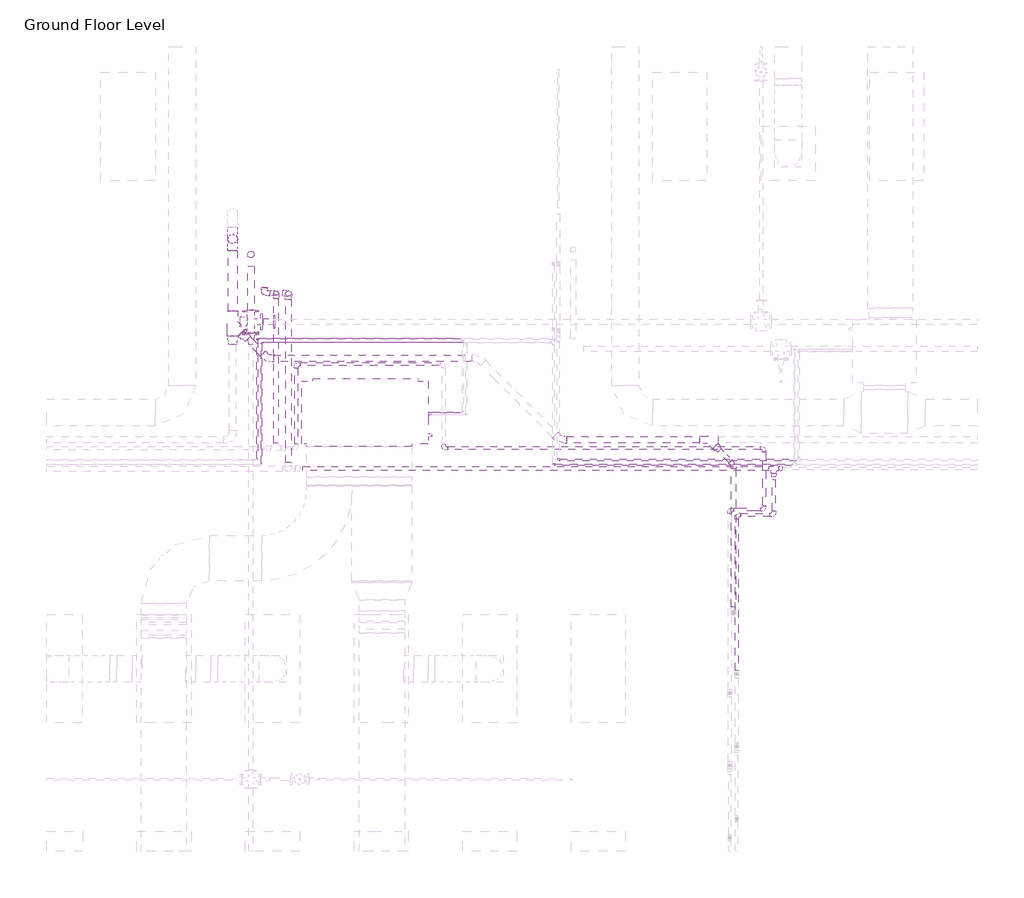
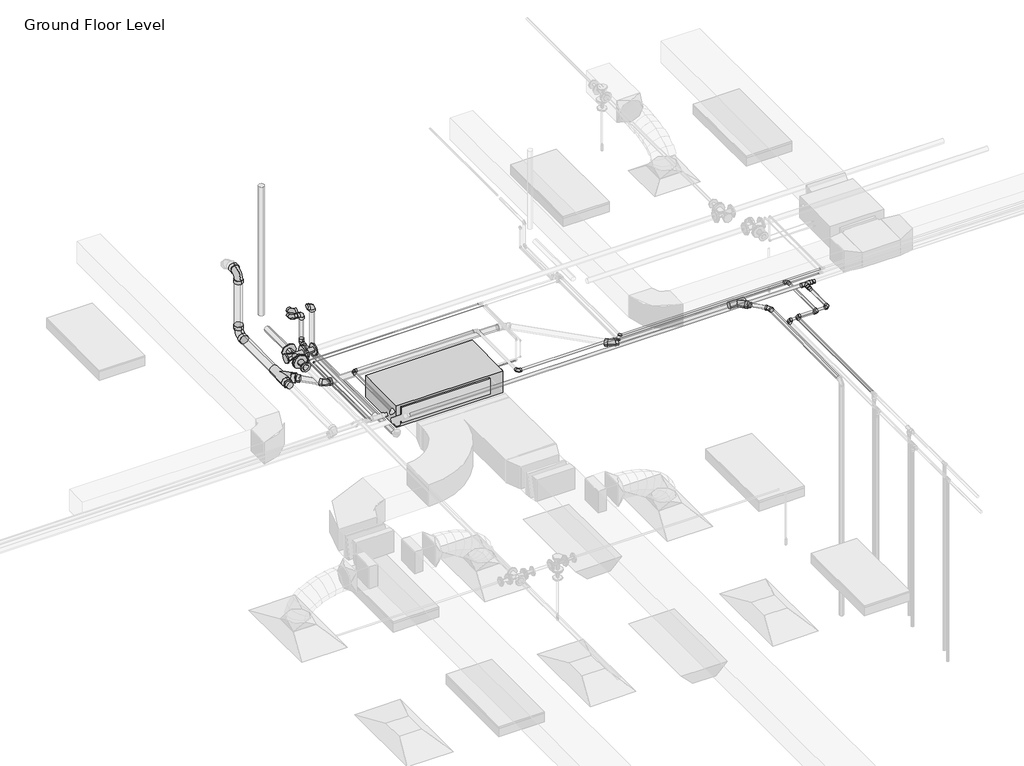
# One storey, part 52 of 74: 33 pipe fittings, 30 pipe segments, 1 proxy.
"""IFC4 building model written with IfcOpenShell, lengths in millimetres."""

from ifc_helpers import new_model, si_unit, point, frame, frame_2d, origin, place, context, project, spatial, circle_curve, trimmed, segment, composite_curve, outline, extrude, transform, mapped, element, save
from components import fcu_daikin_iu_5a1bd61d, m_bend_pvc_sch_40_dwv_standard_9e3ead78, m_bend_pvc_sch_40_dwv_standard_3e306cb9, m_bend_pvc_sch_40_dwv_standard_bd716fa2, m_bend_pvc_sch_40_dwv_standard_fbb643c2, m_bend_pvc_sch_40_dwv_standard_bfb77a87, m_elbow_generic_standard_a088f956, m_elbow_generic_standard_2a704253, m_elbow_generic_standard_73005802, m_elbow_generic_standard_bb5ffebe, m_reducer_flanged_cs_class_150_standard_50093ec8, m_reducer_flanged_cs_class_150_standard_aac2962f, m_reducer_pvc_sch_40_dwv_standard_daff2b06, m_reducer_pvc_sch_40_dwv_standard_93e50943, m_tee_pvc_sch_40_standard_5dbb3026, m_tee_pvc_sch_40_standard_4c5b037c, m_tee_round_base_flanged_cs_class_150_standard_f067e6f9, standard_517a5a8d, standard_08ff6011, standard_d0d0b892, standard_57727813, standard_102e5625

model = new_model("IFC4")

# Units and contexts
model_context = context("Model", 3, world=origin())
ifc_project = project(units=[si_unit("LENGTHUNIT", "METRE", prefix="MILLI")], contexts=[model_context])

# Site, building, storey
site = spatial("IfcSite", under=ifc_project)
building = spatial("IfcBuilding", under=site)
storey = spatial("IfcBuildingStorey", under=building, Name="Ground Floor Level", Elevation=900.0)

# Proxy
placement = place(None, origin())
fcu_daikin_iu_shape = fcu_daikin_iu_5a1bd61d(model_context)
element("IfcBuildingElementProxy", 1, Name="FCU-DAIKIN IU : 12.9kW, 230V/50Hz/1Ph", ObjectType="FCU-DAIKIN IU : 12.9kW, 230V/50Hz/1Ph", at=placement, inside=storey, context=model_context, shape_type="MappedRepresentation", body=[
    mapped(fcu_daikin_iu_shape, transform((-4715.1910789, 14069.8153534, 3984.0925223), x_axis=(1.0, 0.0, 0.0), y_axis=(0.0, 1.0, 0.0), z_axis=(0.0, 0.0, 1.0))),
])

# Pipe fittings
m_bend_pvc_sch_40_dwv_standard_shape = m_bend_pvc_sch_40_dwv_standard_9e3ead78(model_context)
element("IfcPipeFitting", 2, ObjectType="M_Bend - PVC - Sch 40 - DWV : Standard", at=placement, inside=storey, context=model_context, shape_type="MappedRepresentation", body=[
    mapped(m_bend_pvc_sch_40_dwv_standard_shape, transform((-2561.2921336, 13768.7316659, 4127.72349), x_axis=(0.7070931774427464, -0.7070575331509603, -0.009427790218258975), y_axis=(0.7070496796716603, 0.7071481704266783, -0.0047133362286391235), z_axis=(0.009999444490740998, -0.003333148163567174, 0.9999444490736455))),
])
m_bend_pvc_sch_40_dwv_standard_2_shape = m_bend_pvc_sch_40_dwv_standard_3e306cb9(model_context)
element("IfcPipeFitting", 3, ObjectType="M_Bend - PVC - Sch 40 - DWV : Standard", at=placement, inside=storey, context=model_context, shape_type="MappedRepresentation", body=[
    mapped(m_bend_pvc_sch_40_dwv_standard_2_shape, transform((-642.2357232, 13495.4654482, 4110.1731446), x_axis=(0.0, 0.9999500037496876, 0.009999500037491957), y_axis=(-0.9999912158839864, -4.191228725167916e-05, 0.004191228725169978), z_axis=(0.004191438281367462, -0.00999941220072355, 0.9999412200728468))),
])
m_bend_pvc_sch_40_dwv_standard_3_shape = m_bend_pvc_sch_40_dwv_standard_bd716fa2(model_context)
element("IfcPipeFitting", 4, ObjectType="M_Bend - PVC - Sch 40 - DWV : Standard", at=placement, inside=storey, context=model_context, shape_type="MappedRepresentation", body=[
    mapped(m_bend_pvc_sch_40_dwv_standard_3_shape, transform((-6179.1770144, 15988.8715849, 4179.1289206), x_axis=(0.0, 0.9999500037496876, 0.009999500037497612), y_axis=(0.0, -0.009999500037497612, 0.9999500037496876), z_axis=(1.0, 0.0, 0.0))),
])
m_bend_pvc_sch_40_dwv_standard_4_shape = m_bend_pvc_sch_40_dwv_standard_fbb643c2(model_context)
element("IfcPipeFitting", 5, ObjectType="M_Bend - PVC - Sch 40 - DWV : Standard", at=placement, inside=storey, context=model_context, shape_type="MappedRepresentation", body=[
    mapped(m_bend_pvc_sch_40_dwv_standard_4_shape, transform((-5796.171114, 14668.7334723, 4163.0722858), x_axis=(0.7069124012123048, -0.7071711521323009, -0.013557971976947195), y_axis=(0.7072304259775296, 0.7069828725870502, -0.0005851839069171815), z_axis=(0.009999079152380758, -0.00917493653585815, 0.999907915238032))),
])
m_bend_pvc_sch_40_dwv_standard_5_shape = m_bend_pvc_sch_40_dwv_standard_bfb77a87(model_context)
element("IfcPipeFitting", 6, ObjectType="M_Bend - PVC - Sch 40 - DWV : Standard", at=placement, inside=storey, context=model_context, shape_type="MappedRepresentation", body=[
    mapped(m_bend_pvc_sch_40_dwv_standard_5_shape, transform((-6179.1776394, 15988.874234, 5027.5258857), x_axis=(-4.882554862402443e-06, 2.069385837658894e-05, 0.9999999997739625), y_axis=(4.892659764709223e-08, 0.9999999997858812, -2.0693858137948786e-05), z_axis=(-0.9999999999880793, 4.8825558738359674e-08, -4.882555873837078e-06))),
])
m_elbow_generic_standard_shape = m_elbow_generic_standard_a088f956(model_context)
element("IfcPipeFitting", 7, ObjectType="M_Elbow - Generic : Standard", at=placement, inside=storey, context=model_context, shape_type="MappedRepresentation", body=[
    mapped(m_elbow_generic_standard_shape, transform((-5907.05663, 14885.6024145, 4380.0), x_axis=(-1.0, 0.0, 0.0), y_axis=(0.0, -1.0, 0.0), z_axis=(0.0, 0.0, 1.0))),
])
m_elbow_generic_standard_2_shape = m_elbow_generic_standard_2a704253(model_context)
element("IfcPipeFitting", 8, ObjectType="M_Elbow - Generic : Standard", at=placement, inside=storey, context=model_context, shape_type="MappedRepresentation", body=[
    mapped(m_elbow_generic_standard_2_shape, transform((-5859.8931643, 14844.4055749, 4365.0), x_axis=(-1.0, 0.0, 0.0), y_axis=(0.0, -1.0, 0.0), z_axis=(0.0, 0.0, 1.0))),
])
m_elbow_generic_standard_3_shape = m_elbow_generic_standard_73005802(model_context)
element("IfcPipeFitting", 9, ObjectType="M_Elbow - Generic : Standard", at=placement, inside=storey, context=model_context, shape_type="MappedRepresentation", body=[
    mapped(m_elbow_generic_standard_3_shape, transform((-2579.6952605, 13545.2153534, 4380.0), x_axis=(0.0, -1.0, 0.0), y_axis=(1.0, 0.0, 0.0), z_axis=(0.0, 0.0, 1.0))),
])
m_elbow_generic_standard_4_shape = m_elbow_generic_standard_bb5ffebe(model_context)
element("IfcPipeFitting", 10, ObjectType="M_Elbow - Generic : Standard", at=placement, inside=storey, context=model_context, shape_type="MappedRepresentation", body=[
    mapped(m_elbow_generic_standard_4_shape, transform((-2632.5317947, 13494.0185138, 4365.0), x_axis=(0.0, -1.0, 0.0), y_axis=(1.0, 0.0, 0.0), z_axis=(0.0, 0.0, 1.0))),
])
m_reducer_flanged_cs_class_150_standard_shape = m_reducer_flanged_cs_class_150_standard_50093ec8(model_context)
element("IfcPipeFitting", 11, ObjectType="M_Reducer - Flanged - CS - Class 150 : Standard", at=placement, inside=storey, context=model_context, shape_type="MappedRepresentation", body=[
    mapped(m_reducer_flanged_cs_class_150_standard_shape, transform((-5851.130502, 15073.2009828, 4360.0), x_axis=(1.0, 0.0, 0.0), y_axis=(0.0, 1.0, 0.0), z_axis=(0.0, 0.0, 1.0))),
])
m_reducer_flanged_cs_class_150_standard_2_shape = m_reducer_flanged_cs_class_150_standard_aac2962f(model_context)
element("IfcPipeFitting", 12, ObjectType="M_Reducer - Flanged - CS - Class 150 : Standard", at=placement, inside=storey, context=model_context, shape_type="MappedRepresentation", body=[
    mapped(m_reducer_flanged_cs_class_150_standard_2_shape, transform((-5978.130502, 14946.2009828, 4360.0), x_axis=(0.0, -1.0, 0.0), y_axis=(1.0, 0.0, 0.0), z_axis=(0.0, 0.0, 1.0))),
])
m_reducer_pvc_sch_40_dwv_standard_shape = m_reducer_pvc_sch_40_dwv_standard_daff2b06(model_context)
element("IfcPipeFitting", 13, ObjectType="M_Reducer - PVC - Sch 40 - DWV : Standard", at=placement, inside=storey, context=model_context, shape_type="MappedRepresentation", body=[
    mapped(m_reducer_pvc_sch_40_dwv_standard_shape, transform((-843.6840301, 13696.9036229, 4110.2439857), x_axis=(0.7070889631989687, -0.7070533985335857, -0.010034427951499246), y_axis=(0.707053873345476, 0.7071477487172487, -0.004108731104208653), z_axis=(0.010000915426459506, -0.004189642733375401, 0.9999412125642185))),
])
m_reducer_pvc_sch_40_dwv_standard_2_shape = m_reducer_pvc_sch_40_dwv_standard_93e50943(model_context)
element("IfcPipeFitting", 14, ObjectType="M_Reducer - PVC - Sch 40 - DWV : Standard", at=placement, inside=storey, context=model_context, shape_type="MappedRepresentation", body=[
    mapped(m_reducer_pvc_sch_40_dwv_standard_2_shape, transform((-6179.1770144, 14819.9179815, 4167.4393846), x_axis=(0.0, 0.9999500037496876, 0.009999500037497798), y_axis=(-1.0000000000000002, 0.0, 0.0), z_axis=(0.0, -0.009999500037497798, 0.9999500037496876))),
])
element("IfcPipeFitting", 15, ObjectType="M_Reducer - PVC - Sch 40 - DWV : Standard", at=placement, inside=storey, context=model_context, shape_type="MappedRepresentation", body=[
    mapped(m_reducer_pvc_sch_40_dwv_standard_2_shape, transform((-6010.7168995, 14883.3577879, 4167.1870895), x_axis=(-0.7069124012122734, 0.7071711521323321, 0.01355797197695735), y_axis=(-0.7072361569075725, -0.7069773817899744, -2.1519182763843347e-08), z_axis=(0.00958516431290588, -0.009588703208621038, 0.9999080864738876))),
])
m_tee_pvc_sch_40_standard_shape = m_tee_pvc_sch_40_standard_5dbb3026(model_context)
element("IfcPipeFitting", 16, ObjectType="M_Tee - PVC - Sch 40 : Standard", at=placement, inside=storey, context=model_context, shape_type="MappedRepresentation", body=[
    mapped(m_tee_pvc_sch_40_standard_shape, transform((-915.515686, 13768.7316659, 4111.2633618), x_axis=(-0.9999499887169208, 0.0, 0.010001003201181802), y_axis=(4.190063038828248e-05, 0.9999912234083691, 0.004189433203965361), z_axis=(-0.010000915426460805, 0.004189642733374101, -0.9999412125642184))),
])
m_tee_pvc_sch_40_standard_2_shape = m_tee_pvc_sch_40_standard_4c5b037c(model_context)
element("IfcPipeFitting", 17, ObjectType="M_Tee - PVC - Sch 40 : Standard", at=placement, inside=storey, context=model_context, shape_type="MappedRepresentation", body=[
    mapped(m_tee_pvc_sch_40_standard_2_shape, transform((-6179.1770144, 15051.7796868, 4169.7580016), x_axis=(0.0, 0.9999500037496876, 0.009999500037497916), y_axis=(-0.9999972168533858, -2.3591797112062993e-05, 0.0023591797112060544), z_axis=(0.0023592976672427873, -0.009999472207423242, 0.9999472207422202))),
])
m_tee_round_base_flanged_cs_class_150_standard_shape = m_tee_round_base_flanged_cs_class_150_standard_f067e6f9(model_context)
element("IfcPipeFitting", 18, ObjectType="M_Tee Round Base - Flanged - CS - Class 150 : Standard", at=placement, inside=storey, context=model_context, shape_type="MappedRepresentation", body=[
    mapped(m_tee_round_base_flanged_cs_class_150_standard_shape, transform((-5978.130502, 15073.2009828, 4360.0), x_axis=(0.0, -1.0, 0.0), y_axis=(-1.0, 0.0, 0.0), z_axis=(0.0, 0.0, -1.0))),
])
standard_shape = standard_517a5a8d(model_context)
element("IfcPipeFitting", 19, ObjectType="M_Elbow - CPVC - Sch 40 : Standard", at=placement, inside=storey, context=model_context, shape_type="MappedRepresentation", body=[
    mapped(standard_shape, transform((-607.2327605, 12935.5128345, 4315.0), x_axis=(-1.0, 0.0, 0.0), y_axis=(0.0, -1.0, 0.0), z_axis=(0.0, 0.0, 1.0))),
])
element("IfcPipeFitting", 20, ObjectType="M_Elbow - CPVC - Sch 40 : Standard", at=placement, inside=storey, context=model_context, shape_type="MappedRepresentation", body=[
    mapped(standard_shape, transform((-197.2327605, 12935.5128345, 4315.0), x_axis=(1.0, 0.0, 0.0), y_axis=(0.0, 1.0, 0.0), z_axis=(0.0, 0.0, 1.0))),
])
element("IfcPipeFitting", 21, ObjectType="M_Elbow - CPVC - Sch 40 : Standard", at=placement, inside=storey, context=model_context, shape_type="MappedRepresentation", body=[
    mapped(standard_shape, transform((-304.0671674, 13675.2153534, 4250.0), x_axis=(0.0, 1.0, 0.0), y_axis=(-1.0, 0.0, 0.0), z_axis=(0.0, 0.0, 1.0))),
])
element("IfcPipeFitting", 22, ObjectType="M_Elbow - CPVC - Sch 40 : Standard", at=placement, inside=storey, context=model_context, shape_type="MappedRepresentation", body=[
    mapped(standard_shape, transform((-304.0671674, 12995.2153534, 4250.0), x_axis=(1.0, 0.0, 0.0), y_axis=(0.0, 1.0, 0.0), z_axis=(0.0, 0.0, 1.0))),
])
element("IfcPipeFitting", 23, ObjectType="M_Elbow - CPVC - Sch 40 : Standard", at=placement, inside=storey, context=model_context, shape_type="MappedRepresentation", body=[
    mapped(standard_shape, transform((-684.0671674, 12995.2153534, 4250.0), x_axis=(-1.0, 0.0, 0.0), y_axis=(0.0, -1.0, 0.0), z_axis=(0.0, 0.0, 1.0))),
])
element("IfcPipeFitting", 24, ObjectType="M_Elbow - CPVC - Sch 40 : Standard", at=placement, inside=storey, context=model_context, shape_type="MappedRepresentation", body=[
    mapped(standard_shape, transform((-5476.1871015, 14603.43487, 4250.0), x_axis=(-1.0, 0.0, 0.0), y_axis=(0.0, -1.0, 0.0), z_axis=(0.0, 0.0, 1.0))),
])
element("IfcPipeFitting", 25, ObjectType="M_Elbow - CPVC - Sch 40 : Standard", at=placement, inside=storey, context=model_context, shape_type="MappedRepresentation", body=[
    mapped(standard_shape, transform((-3846.4489567, 13675.2153534, 4250.0), x_axis=(0.0, -1.0, 0.0), y_axis=(1.0, 0.0, 0.0), z_axis=(0.0, 0.0, 1.0))),
])
standard_2_shape = standard_08ff6011(model_context)
element("IfcPipeFitting", 26, ObjectType="M_Tee - CPVC - Sch 40 : Standard", at=placement, inside=storey, context=model_context, shape_type="MappedRepresentation", body=[
    mapped(standard_2_shape, transform((-197.2327605, 13449.9865561, 4315.0), x_axis=(1.0, 0.0, 0.0), y_axis=(0.0, 1.0, 0.0), z_axis=(0.0, 0.0, 1.0))),
])
standard_3_shape = standard_d0d0b892(model_context)
element("IfcPipeFitting", 27, ObjectType="M_Coupling Reducing - CPVC - Sch 40 : Standard", at=placement, inside=storey, context=model_context, shape_type="MappedRepresentation", body=[
    mapped(standard_3_shape, transform((-143.2577605, 13449.9865561, 4315.0), x_axis=(1.0, 0.0, 0.0), y_axis=(0.0, 1.0, 0.0), z_axis=(0.0, 0.0, 1.0))),
])
element("IfcPipeFitting", 28, ObjectType="M_Coupling Reducing - CPVC - Sch 40 : Standard", at=placement, inside=storey, context=model_context, shape_type="MappedRepresentation", body=[
    mapped(standard_3_shape, transform((-197.2327605, 13396.0115561, 4315.0), x_axis=(0.0, -1.0, 0.0), y_axis=(1.0, 0.0, 0.0), z_axis=(0.0, 0.0, 1.0))),
])
standard_4_shape = standard_57727813(model_context)
element("IfcPipeFitting", 29, ObjectType="M_Elbow - CPVC - Sch 40 : Standard", at=placement, inside=storey, context=model_context, shape_type="MappedRepresentation", body=[
    mapped(standard_4_shape, transform((-5560.8713756, 15385.5016509, 4719.8375), x_axis=(0.0, 0.0, 1.0), y_axis=(-0.997564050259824, 0.06975647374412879, 0.0), z_axis=(-0.06975647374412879, -0.997564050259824, 0.0))),
])
element("IfcPipeFitting", 30, ObjectType="M_Elbow - CPVC - Sch 40 : Standard", at=placement, inside=storey, context=model_context, shape_type="MappedRepresentation", body=[
    mapped(standard_4_shape, transform((-5831.0029399, 15389.9865561, 4719.8375), x_axis=(0.0, -1.0, 0.0), y_axis=(1.0, 0.0, 0.0), z_axis=(0.0, 0.0, 1.0))),
])
element("IfcPipeFitting", 31, ObjectType="M_Elbow - CPVC - Sch 40 : Standard", at=placement, inside=storey, context=model_context, shape_type="MappedRepresentation", body=[
    mapped(standard_4_shape, transform((-5560.8713756, 15385.5016509, 4090.0), x_axis=(0.0, 0.0, -1.0), y_axis=(0.0, -1.0, 0.0), z_axis=(-1.0, 0.0, 0.0))),
])
standard_5_shape = standard_102e5625(model_context)
element("IfcPipeFitting", 32, ObjectType="M_Elbow - CPVC - Sch 40 : Standard", at=placement, inside=storey, context=model_context, shape_type="MappedRepresentation", body=[
    mapped(standard_5_shape, transform((-5698.3060147, 15389.9865561, 4250.0), x_axis=(0.0, 1.0, 0.0), y_axis=(0.0, 0.0, 1.0), z_axis=(1.0, 0.0, 0.0))),
])
element("IfcPipeFitting", 33, ObjectType="M_Elbow - CPVC - Sch 40 : Standard", at=placement, inside=storey, context=model_context, shape_type="MappedRepresentation", body=[
    mapped(standard_5_shape, transform((-5698.3060147, 15389.9865561, 4650.0), x_axis=(0.0, 0.0, 1.0), y_axis=(-1.0, 0.0, 0.0), z_axis=(0.0, -1.0, 0.0))),
])
element("IfcPipeFitting", 34, ObjectType="M_Elbow - CPVC - Sch 40 : Standard", at=placement, inside=storey, context=model_context, shape_type="MappedRepresentation", body=[
    mapped(standard_5_shape, transform((-5831.0029399, 15389.9865561, 4650.0), x_axis=(0.0, -1.0, 0.0), y_axis=(1.0, 0.0, 0.0), z_axis=(0.0, 0.0, 1.0))),
])

# Pipe segments
element("IfcPipeSegment", 35, ObjectType="CPVC", at=placement, inside=storey, context=model_context, shape_type="SweptSolid", body=[
    extrude(outline(composite_curve([segment(trimmed(circle_curve(frame_2d((4090.0, -5560.8713756)), 30.1625), [point((4090.0, -5591.0338756))], [point((4059.8375, -5560.8713756))], False, "CARTESIAN"), True, "CONTINUOUS"), segment(trimmed(circle_curve(frame_2d((4090.0, -5560.8713756)), 30.1625), [point((4059.8375, -5560.8713756))], [point((4090.0, -5530.7088756))], False, "CARTESIAN"), True, "CONTINUOUS"), segment(trimmed(circle_curve(frame_2d((4090.0, -5560.8713756)), 30.1625), [point((4090.0, -5530.7088756))], [point((4120.1625, -5560.8713756))], False, "CARTESIAN"), True, "CONTINUOUS"), segment(trimmed(circle_curve(frame_2d((4090.0, -5560.8713756)), 30.1625), [point((4120.1625, -5560.8713756))], [point((4090.0, -5591.0338756))], False, "CARTESIAN"), True, "CONTINUOUS")], self_intersect=False)), frame((0.0, 13514.2803061, 0.0), z_axis=(0.0, 1.0, 0.0), x_axis=(0.0, 0.0, 1.0)), (0.0, 0.0, 1.0), 1806.9275947),
])
element("IfcPipeSegment", 36, ObjectType="CPVC", at=placement, inside=storey, context=model_context, shape_type="SweptSolid", body=[
    extrude(outline(composite_curve([segment(trimmed(circle_curve(frame_2d((4250.0, -5698.3060147)), 24.13), [point((4250.0, -5674.1760147))], [point((4274.13, -5698.3060147))], False, "CARTESIAN"), True, "CONTINUOUS"), segment(trimmed(circle_curve(frame_2d((4250.0, -5698.3060147)), 24.13), [point((4274.13, -5698.3060147))], [point((4250.0, -5722.4360147))], False, "CARTESIAN"), True, "CONTINUOUS"), segment(trimmed(circle_curve(frame_2d((4250.0, -5698.3060147)), 24.13), [point((4250.0, -5722.4360147))], [point((4225.87, -5698.3060147))], False, "CARTESIAN"), True, "CONTINUOUS"), segment(trimmed(circle_curve(frame_2d((4250.0, -5698.3060147)), 24.13), [point((4225.87, -5698.3060147))], [point((4250.0, -5674.1760147))], False, "CARTESIAN"), True, "CONTINUOUS")], self_intersect=False)), frame((0.0, 13733.9655534, 0.0), z_axis=(0.0, 1.0, 0.0), x_axis=(0.0, 0.0, 1.0)), (0.0, 0.0, 1.0), 1593.3020527),
])
element("IfcPipeSegment", 37, ObjectType="CPVC", at=placement, inside=storey, context=model_context, shape_type="SweptSolid", body=[
    extrude(outline(composite_curve([segment(trimmed(circle_curve(frame_2d((4315.0, -607.2327605)), 16.7005), [point((4315.0, -590.5322605))], [point((4331.7005, -607.2327605))], False, "CARTESIAN"), True, "CONTINUOUS"), segment(trimmed(circle_curve(frame_2d((4315.0, -607.2327605)), 16.7005), [point((4331.7005, -607.2327605))], [point((4315.0, -623.9332605))], False, "CARTESIAN"), True, "CONTINUOUS"), segment(trimmed(circle_curve(frame_2d((4315.0, -607.2327605)), 16.7005), [point((4315.0, -623.9332605))], [point((4298.2995, -607.2327605))], False, "CARTESIAN"), True, "CONTINUOUS"), segment(trimmed(circle_curve(frame_2d((4315.0, -607.2327605)), 16.7005), [point((4298.2995, -607.2327605))], [point((4315.0, -590.5322605))], False, "CARTESIAN"), True, "CONTINUOUS")], self_intersect=False)), frame((0.0, 11215.2130345, 0.0), z_axis=(0.0, 1.0, 0.0), x_axis=(0.0, 0.0, 1.0)), (0.0, 0.0, 1.0), 1677.03725),
])
element("IfcPipeSegment", 38, ObjectType="CPVC", at=placement, inside=storey, context=model_context, shape_type="SweptSolid", body=[
    extrude(outline(composite_curve([segment(trimmed(circle_curve(frame_2d((12935.5128345, 4315.0)), 16.7005), [point((12918.8123345, 4315.0))], [point((12935.5128345, 4331.7005))], False, "CARTESIAN"), True, "CONTINUOUS"), segment(trimmed(circle_curve(frame_2d((12935.5128345, 4315.0)), 16.7005), [point((12935.5128345, 4331.7005))], [point((12952.2133345, 4315.0))], False, "CARTESIAN"), True, "CONTINUOUS"), segment(trimmed(circle_curve(frame_2d((12935.5128345, 4315.0)), 16.7005), [point((12952.2133345, 4315.0))], [point((12935.5128345, 4298.2995))], False, "CARTESIAN"), True, "CONTINUOUS"), segment(trimmed(circle_curve(frame_2d((12935.5128345, 4315.0)), 16.7005), [point((12935.5128345, 4298.2995))], [point((12918.8123345, 4315.0))], False, "CARTESIAN"), True, "CONTINUOUS")], self_intersect=False)), frame((-563.9702105, 0.0, 0.0), z_axis=(1.0, 0.0, 0.0), x_axis=(0.0, 1.0, 0.0)), (0.0, 0.0, 1.0), 323.4749),
])
element("IfcPipeSegment", 39, ObjectType="CPVC", at=placement, inside=storey, context=model_context, shape_type="SweptSolid", body=[
    extrude(outline(composite_curve([segment(trimmed(circle_curve(frame_2d((4315.0, -197.2327605)), 16.7005), [point((4315.0, -180.5322605))], [point((4331.7005, -197.2327605))], False, "CARTESIAN"), True, "CONTINUOUS"), segment(trimmed(circle_curve(frame_2d((4315.0, -197.2327605)), 16.7005), [point((4331.7005, -197.2327605))], [point((4315.0, -213.9332605))], False, "CARTESIAN"), True, "CONTINUOUS"), segment(trimmed(circle_curve(frame_2d((4315.0, -197.2327605)), 16.7005), [point((4315.0, -213.9332605))], [point((4298.2995, -197.2327605))], False, "CARTESIAN"), True, "CONTINUOUS"), segment(trimmed(circle_curve(frame_2d((4315.0, -197.2327605)), 16.7005), [point((4298.2995, -197.2327605))], [point((4315.0, -180.5322605))], False, "CARTESIAN"), True, "CONTINUOUS")], self_intersect=False)), frame((0.0, 12978.7753845, 0.0), z_axis=(0.0, 1.0, 0.0), x_axis=(0.0, 0.0, 1.0)), (0.0, 0.0, 1.0), 351.1172966),
])
element("IfcPipeSegment", 40, ObjectType="CPVC", at=placement, inside=storey, context=model_context, shape_type="SweptSolid", body=[
    extrude(outline(composite_curve([segment(trimmed(circle_curve(frame_2d((13449.9865561, 4315.0)), 21.082), [point((13471.0685561, 4315.0))], [point((13449.9865561, 4293.918))], False, "CARTESIAN"), True, "CONTINUOUS"), segment(trimmed(circle_curve(frame_2d((13449.9865561, 4315.0)), 21.082), [point((13449.9865561, 4293.918))], [point((13428.9045561, 4315.0))], False, "CARTESIAN"), True, "CONTINUOUS"), segment(trimmed(circle_curve(frame_2d((13449.9865561, 4315.0)), 21.082), [point((13428.9045561, 4315.0))], [point((13449.9865561, 4336.082))], False, "CARTESIAN"), True, "CONTINUOUS"), segment(trimmed(circle_curve(frame_2d((13449.9865561, 4315.0)), 21.082), [point((13449.9865561, 4336.082))], [point((13471.0685561, 4315.0))], False, "CARTESIAN"), True, "CONTINUOUS")], self_intersect=False)), frame((-5401.6556136, 0.0, 0.0), z_axis=(1.0, 0.0, 0.0), x_axis=(0.0, 1.0, 0.0)), (0.0, 0.0, 1.0), 5150.4478531),
])
element("IfcPipeSegment", 41, ObjectType="CPVC", at=placement, inside=storey, context=model_context, shape_type="SweptSolid", body=[
    extrude(outline(composite_curve([segment(trimmed(circle_curve(frame_2d((-5698.3060147, 15389.9865561)), 24.13), [point((-5722.4360147, 15389.9865561))], [point((-5698.3060147, 15414.1165561))], False, "CARTESIAN"), True, "CONTINUOUS"), segment(trimmed(circle_curve(frame_2d((-5698.3060147, 15389.9865561)), 24.13), [point((-5698.3060147, 15414.1165561))], [point((-5674.1760147, 15389.9865561))], False, "CARTESIAN"), True, "CONTINUOUS"), segment(trimmed(circle_curve(frame_2d((-5698.3060147, 15389.9865561)), 24.13), [point((-5674.1760147, 15389.9865561))], [point((-5698.3060147, 15365.8565561))], False, "CARTESIAN"), True, "CONTINUOUS"), segment(trimmed(circle_curve(frame_2d((-5698.3060147, 15389.9865561)), 24.13), [point((-5698.3060147, 15365.8565561))], [point((-5722.4360147, 15389.9865561))], False, "CARTESIAN"), True, "CONTINUOUS")], self_intersect=False)), frame((0.0, 0.0, 4312.71895), z_axis=(0.0, 0.0, 1.0), x_axis=(1.0, 0.0, 0.0)), (0.0, 0.0, 1.0), 274.5621),
])
element("IfcPipeSegment", 42, ObjectType="CPVC", at=placement, inside=storey, context=model_context, shape_type="SweptSolid", body=[
    extrude(outline(composite_curve([segment(trimmed(circle_curve(frame_2d((-5560.8713756, 15385.5016509)), 30.1625), [point((-5591.0338756, 15385.5016509))], [point((-5560.8713756, 15415.6641509))], False, "CARTESIAN"), True, "CONTINUOUS"), segment(trimmed(circle_curve(frame_2d((-5560.8713756, 15385.5016509)), 30.1625), [point((-5560.8713756, 15415.6641509))], [point((-5530.7088756, 15385.5016509))], False, "CARTESIAN"), True, "CONTINUOUS"), segment(trimmed(circle_curve(frame_2d((-5560.8713756, 15385.5016509)), 30.1625), [point((-5530.7088756, 15385.5016509))], [point((-5560.8713756, 15355.3391509))], False, "CARTESIAN"), True, "CONTINUOUS"), segment(trimmed(circle_curve(frame_2d((-5560.8713756, 15385.5016509)), 30.1625), [point((-5560.8713756, 15355.3391509))], [point((-5591.0338756, 15385.5016509))], False, "CARTESIAN"), True, "CONTINUOUS")], self_intersect=False)), frame((0.0, 0.0, 4154.29375), z_axis=(0.0, 0.0, 1.0), x_axis=(1.0, 0.0, 0.0)), (0.0, 0.0, 1.0), 501.25),
])
element("IfcPipeSegment", 43, ObjectType="CPVC", at=placement, inside=storey, context=model_context, shape_type="SweptSolid", body=[
    extrude(outline(composite_curve([segment(trimmed(circle_curve(frame_2d((4250.0, -304.0671674)), 16.7005), [point((4250.0, -320.7676674))], [point((4233.2995, -304.0671674))], False, "CARTESIAN"), True, "CONTINUOUS"), segment(trimmed(circle_curve(frame_2d((4250.0, -304.0671674)), 16.7005), [point((4233.2995, -304.0671674))], [point((4250.0, -287.3666674))], False, "CARTESIAN"), True, "CONTINUOUS"), segment(trimmed(circle_curve(frame_2d((4250.0, -304.0671674)), 16.7005), [point((4250.0, -287.3666674))], [point((4266.7005, -304.0671674))], False, "CARTESIAN"), True, "CONTINUOUS"), segment(trimmed(circle_curve(frame_2d((4250.0, -304.0671674)), 16.7005), [point((4266.7005, -304.0671674))], [point((4250.0, -320.7676674))], False, "CARTESIAN"), True, "CONTINUOUS")], self_intersect=False)), frame((0.0, 13038.4779034, 0.0), z_axis=(0.0, 1.0, 0.0), x_axis=(0.0, 0.0, 1.0)), (0.0, 0.0, 1.0), 593.4749),
])
element("IfcPipeSegment", 44, ObjectType="CPVC", at=placement, inside=storey, context=model_context, shape_type="SweptSolid", body=[
    extrude(outline(composite_curve([segment(trimmed(circle_curve(frame_2d((12995.2153534, 4250.0)), 16.7005), [point((13011.9158534, 4250.0))], [point((12995.2153534, 4233.2995))], False, "CARTESIAN"), True, "CONTINUOUS"), segment(trimmed(circle_curve(frame_2d((12995.2153534, 4250.0)), 16.7005), [point((12995.2153534, 4233.2995))], [point((12978.5148534, 4250.0))], False, "CARTESIAN"), True, "CONTINUOUS"), segment(trimmed(circle_curve(frame_2d((12995.2153534, 4250.0)), 16.7005), [point((12978.5148534, 4250.0))], [point((12995.2153534, 4266.7005))], False, "CARTESIAN"), True, "CONTINUOUS"), segment(trimmed(circle_curve(frame_2d((12995.2153534, 4250.0)), 16.7005), [point((12995.2153534, 4266.7005))], [point((13011.9158534, 4250.0))], False, "CARTESIAN"), True, "CONTINUOUS")], self_intersect=False)), frame((-640.8046174, 0.0, 0.0), z_axis=(1.0, 0.0, 0.0), x_axis=(0.0, 1.0, 0.0)), (0.0, 0.0, 1.0), 293.4749),
])
element("IfcPipeSegment", 45, ObjectType="CPVC", at=placement, inside=storey, context=model_context, shape_type="SweptSolid", body=[
    extrude(outline(composite_curve([segment(trimmed(circle_curve(frame_2d((4250.0, -5476.1871015)), 16.7005), [point((4250.0, -5459.4866015))], [point((4266.7005, -5476.1871015))], False, "CARTESIAN"), True, "CONTINUOUS"), segment(trimmed(circle_curve(frame_2d((4250.0, -5476.1871015)), 16.7005), [point((4266.7005, -5476.1871015))], [point((4250.0, -5492.8876015))], False, "CARTESIAN"), True, "CONTINUOUS"), segment(trimmed(circle_curve(frame_2d((4250.0, -5476.1871015)), 16.7005), [point((4250.0, -5492.8876015))], [point((4233.2995, -5476.1871015))], False, "CARTESIAN"), True, "CONTINUOUS"), segment(trimmed(circle_curve(frame_2d((4250.0, -5476.1871015)), 16.7005), [point((4233.2995, -5476.1871015))], [point((4250.0, -5459.4866015))], False, "CARTESIAN"), True, "CONTINUOUS")], self_intersect=False)), frame((0.0, 13718.4779034, 0.0), z_axis=(0.0, 1.0, 0.0), x_axis=(0.0, 0.0, 1.0)), (0.0, 0.0, 1.0), 841.6944166),
])
element("IfcPipeSegment", 46, ObjectType="CPVC", at=placement, inside=storey, context=model_context, shape_type="SweptSolid", body=[
    extrude(outline(composite_curve([segment(trimmed(circle_curve(frame_2d((14603.43487, 4250.0)), 16.7005), [point((14620.13537, 4250.0))], [point((14603.43487, 4233.2995))], False, "CARTESIAN"), True, "CONTINUOUS"), segment(trimmed(circle_curve(frame_2d((14603.43487, 4250.0)), 16.7005), [point((14603.43487, 4233.2995))], [point((14586.73437, 4250.0))], False, "CARTESIAN"), True, "CONTINUOUS"), segment(trimmed(circle_curve(frame_2d((14603.43487, 4250.0)), 16.7005), [point((14586.73437, 4250.0))], [point((14603.43487, 4266.7005))], False, "CARTESIAN"), True, "CONTINUOUS"), segment(trimmed(circle_curve(frame_2d((14603.43487, 4250.0)), 16.7005), [point((14603.43487, 4266.7005))], [point((14620.13537, 4250.0))], False, "CARTESIAN"), True, "CONTINUOUS")], self_intersect=False)), frame((-5432.9245515, 0.0, 0.0), z_axis=(1.0, 0.0, 0.0), x_axis=(0.0, 1.0, 0.0)), (0.0, 0.0, 1.0), 1543.2130448),
])
element("IfcPipeSegment", 47, ObjectType="CPVC", at=placement, inside=storey, context=model_context, shape_type="SweptSolid", body=[
    extrude(outline(composite_curve([segment(trimmed(circle_curve(frame_2d((13675.2153534, 4250.0)), 16.7005), [point((13691.9158534, 4250.0))], [point((13675.2153534, 4233.2995))], False, "CARTESIAN"), True, "CONTINUOUS"), segment(trimmed(circle_curve(frame_2d((13675.2153534, 4250.0)), 16.7005), [point((13675.2153534, 4233.2995))], [point((13658.5148534, 4250.0))], False, "CARTESIAN"), True, "CONTINUOUS"), segment(trimmed(circle_curve(frame_2d((13675.2153534, 4250.0)), 16.7005), [point((13658.5148534, 4250.0))], [point((13675.2153534, 4266.7005))], False, "CARTESIAN"), True, "CONTINUOUS"), segment(trimmed(circle_curve(frame_2d((13675.2153534, 4250.0)), 16.7005), [point((13675.2153534, 4266.7005))], [point((13691.9158534, 4250.0))], False, "CARTESIAN"), True, "CONTINUOUS")], self_intersect=False)), frame((-3803.1864067, 0.0, 0.0), z_axis=(1.0, 0.0, 0.0), x_axis=(0.0, 1.0, 0.0)), (0.0, 0.0, 1.0), 3455.8566893),
])
element("IfcPipeSegment", 48, ObjectType="Copper", at=placement, inside=storey, context=model_context, shape_type="SweptSolid", body=[
    extrude(outline(composite_curve([segment(trimmed(circle_curve(frame_2d((4380.0, -5907.05663)), 6.5), [point((4380.0, -5900.55663))], [point((4386.5, -5907.05663))], False, "CARTESIAN"), True, "CONTINUOUS"), segment(trimmed(circle_curve(frame_2d((4380.0, -5907.05663)), 6.5), [point((4386.5, -5907.05663))], [point((4380.0, -5913.55663))], False, "CARTESIAN"), True, "CONTINUOUS"), segment(trimmed(circle_curve(frame_2d((4380.0, -5907.05663)), 6.5), [point((4380.0, -5913.55663))], [point((4373.5, -5907.05663))], False, "CARTESIAN"), True, "CONTINUOUS"), segment(trimmed(circle_curve(frame_2d((4380.0, -5907.05663)), 6.5), [point((4373.5, -5907.05663))], [point((4380.0, -5900.55663))], False, "CARTESIAN"), True, "CONTINUOUS")], self_intersect=False)), frame((0.0, 13559.5028534, 0.0), z_axis=(0.0, 1.0, 0.0), x_axis=(0.0, 0.0, 1.0)), (0.0, 0.0, 1.0), 1311.8120611),
])
element("IfcPipeSegment", 49, ObjectType="Copper", at=placement, inside=storey, context=model_context, shape_type="SweptSolid", body=[
    extrude(outline(composite_curve([segment(trimmed(circle_curve(frame_2d((4365.0, -5859.8931643)), 3.35), [point((4365.0, -5856.5431643))], [point((4368.35, -5859.8931643))], False, "CARTESIAN"), True, "CONTINUOUS"), segment(trimmed(circle_curve(frame_2d((4365.0, -5859.8931643)), 3.35), [point((4368.35, -5859.8931643))], [point((4365.0, -5863.2431643))], False, "CARTESIAN"), True, "CONTINUOUS"), segment(trimmed(circle_curve(frame_2d((4365.0, -5859.8931643)), 3.35), [point((4365.0, -5863.2431643))], [point((4361.65, -5859.8931643))], False, "CARTESIAN"), True, "CONTINUOUS"), segment(trimmed(circle_curve(frame_2d((4365.0, -5859.8931643)), 3.35), [point((4361.65, -5859.8931643))], [point((4365.0, -5856.5431643))], False, "CARTESIAN"), True, "CONTINUOUS")], self_intersect=False)), frame((0.0, 13505.1560138, 0.0), z_axis=(0.0, 1.0, 0.0), x_axis=(0.0, 0.0, 1.0)), (0.0, 0.0, 1.0), 1328.1120611),
])
element("IfcPipeSegment", 50, ObjectType="Copper", at=placement, inside=storey, context=model_context, shape_type="SweptSolid", body=[
    extrude(outline(composite_curve([segment(trimmed(circle_curve(frame_2d((0.0, 6.5)), 6.5), [point((-6.5, 6.5))], [point((0.0, 13.0))], False, "CARTESIAN"), True, "CONTINUOUS"), segment(trimmed(circle_curve(frame_2d((0.0, 6.5)), 6.5), [point((0.0, 13.0))], [point((6.5, 6.5))], False, "CARTESIAN"), True, "CONTINUOUS"), segment(trimmed(circle_curve(frame_2d((0.0, 6.5)), 6.5), [point((6.5, 6.5))], [point((0.0, 0.0))], False, "CARTESIAN"), True, "CONTINUOUS"), segment(trimmed(circle_curve(frame_2d((0.0, 6.5)), 6.5), [point((0.0, 0.0))], [point((-6.5, 6.5))], False, "CARTESIAN"), True, "CONTINUOUS")], self_intersect=False)), frame((-3977.0908954, 14069.8153534, 4077.5925223), z_axis=(0.9999999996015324, 0.0, 2.8230042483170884e-05), x_axis=(0.0, 1.0, 0.0)), (0.0, 0.0, 1.0), 325.7156105),
])
element("IfcPipeSegment", 51, ObjectType="Copper", at=placement, inside=storey, context=model_context, shape_type="SweptSolid", body=[
    extrude(outline(composite_curve([segment(trimmed(circle_curve(frame_2d((14885.6024145, 4380.0)), 6.5), [point((14879.1024145, 4380.0))], [point((14885.6024145, 4386.5))], False, "CARTESIAN"), True, "CONTINUOUS"), segment(trimmed(circle_curve(frame_2d((14885.6024145, 4380.0)), 6.5), [point((14885.6024145, 4386.5))], [point((14892.1024145, 4380.0))], False, "CARTESIAN"), True, "CONTINUOUS"), segment(trimmed(circle_curve(frame_2d((14885.6024145, 4380.0)), 6.5), [point((14892.1024145, 4380.0))], [point((14885.6024145, 4373.5))], False, "CARTESIAN"), True, "CONTINUOUS"), segment(trimmed(circle_curve(frame_2d((14885.6024145, 4380.0)), 6.5), [point((14885.6024145, 4373.5))], [point((14879.1024145, 4380.0))], False, "CARTESIAN"), True, "CONTINUOUS")], self_intersect=False)), frame((-5892.76913, 0.0, 0.0), z_axis=(1.0, 0.0, 0.0), x_axis=(0.0, 1.0, 0.0)), (0.0, 0.0, 1.0), 2228.690551),
])
element("IfcPipeSegment", 52, ObjectType="Copper", at=placement, inside=storey, context=model_context, shape_type="SweptSolid", body=[
    extrude(outline(composite_curve([segment(trimmed(circle_curve(frame_2d((14844.4055749, 4365.0)), 3.35), [point((14847.7555749, 4365.0))], [point((14844.4055749, 4361.65))], False, "CARTESIAN"), True, "CONTINUOUS"), segment(trimmed(circle_curve(frame_2d((14844.4055749, 4365.0)), 3.35), [point((14844.4055749, 4361.65))], [point((14841.0555749, 4365.0))], False, "CARTESIAN"), True, "CONTINUOUS"), segment(trimmed(circle_curve(frame_2d((14844.4055749, 4365.0)), 3.35), [point((14841.0555749, 4365.0))], [point((14844.4055749, 4368.35))], False, "CARTESIAN"), True, "CONTINUOUS"), segment(trimmed(circle_curve(frame_2d((14844.4055749, 4365.0)), 3.35), [point((14844.4055749, 4368.35))], [point((14847.7555749, 4365.0))], False, "CARTESIAN"), True, "CONTINUOUS")], self_intersect=False)), frame((-5848.7556643, 0.0, 0.0), z_axis=(1.0, 0.0, 0.0), x_axis=(0.0, 1.0, 0.0)), (0.0, 0.0, 1.0), 2229.4583352),
])
element("IfcPipeSegment", 53, ObjectType="Copper", at=placement, inside=storey, context=model_context, shape_type="SweptSolid", body=[
    extrude(outline(composite_curve([segment(trimmed(circle_curve(frame_2d((13494.0185138, 4365.0)), 8.1), [point((13485.9185138, 4365.0))], [point((13494.0185138, 4373.1))], False, "CARTESIAN"), True, "CONTINUOUS"), segment(trimmed(circle_curve(frame_2d((13494.0185138, 4365.0)), 8.1), [point((13494.0185138, 4373.1))], [point((13502.1185138, 4365.0))], False, "CARTESIAN"), True, "CONTINUOUS"), segment(trimmed(circle_curve(frame_2d((13494.0185138, 4365.0)), 8.1), [point((13502.1185138, 4365.0))], [point((13494.0185138, 4356.9))], False, "CARTESIAN"), True, "CONTINUOUS"), segment(trimmed(circle_curve(frame_2d((13494.0185138, 4365.0)), 8.1), [point((13494.0185138, 4356.9))], [point((13485.9185138, 4365.0))], False, "CARTESIAN"), True, "CONTINUOUS")], self_intersect=False)), frame((-2616.6567947, 0.0, 0.0), z_axis=(1.0, 0.0, 0.0), x_axis=(0.0, 1.0, 0.0)), (0.0, 0.0, 1.0), 2624.4125),
])
element("IfcPipeSegment", 54, ObjectType="Copper", at=placement, inside=storey, context=model_context, shape_type="SweptSolid", body=[
    extrude(outline(composite_curve([segment(trimmed(circle_curve(frame_2d((13545.2153534, 4380.0)), 11.5), [point((13533.7153534, 4380.0))], [point((13545.2153534, 4391.5))], False, "CARTESIAN"), True, "CONTINUOUS"), segment(trimmed(circle_curve(frame_2d((13545.2153534, 4380.0)), 11.5), [point((13545.2153534, 4391.5))], [point((13556.7153534, 4380.0))], False, "CARTESIAN"), True, "CONTINUOUS"), segment(trimmed(circle_curve(frame_2d((13545.2153534, 4380.0)), 11.5), [point((13556.7153534, 4380.0))], [point((13545.2153534, 4368.5))], False, "CARTESIAN"), True, "CONTINUOUS"), segment(trimmed(circle_curve(frame_2d((13545.2153534, 4380.0)), 11.5), [point((13545.2153534, 4368.5))], [point((13533.7153534, 4380.0))], False, "CARTESIAN"), True, "CONTINUOUS")], self_intersect=False)), frame((-2560.6452605, 0.0, 0.0), z_axis=(1.0, 0.0, 0.0), x_axis=(0.0, 1.0, 0.0)), (0.0, 0.0, 1.0), 2614.9125),
])
element("IfcPipeSegment", 55, ObjectType="PVC - DWV", at=placement, inside=storey, context=model_context, shape_type="SweptSolid", body=[
    extrude(outline(composite_curve([segment(trimmed(circle_curve(frame_2d((0.0, 50.7999999)), 50.8), [point((50.8, 50.7999999))], [point((0.0, 0.0))], False, "CARTESIAN"), True, "CONTINUOUS"), segment(trimmed(circle_curve(frame_2d((0.0, 50.7999999)), 50.8), [point((0.0, 0.0))], [point((-50.8, 50.7999999))], False, "CARTESIAN"), True, "CONTINUOUS"), segment(trimmed(circle_curve(frame_2d((0.0, 50.7999999)), 50.8), [point((-50.8, 50.7999999))], [point((0.0, 101.5999999))], False, "CARTESIAN"), True, "CONTINUOUS"), segment(trimmed(circle_curve(frame_2d((0.0, 50.7999999)), 50.8), [point((0.0, 101.5999999))], [point((50.8, 50.7999999))], False, "CARTESIAN"), True, "CONTINUOUS")], self_intersect=False)), frame((-6179.1770144, 15188.6920457, 4221.9296651), z_axis=(0.0, 0.9999500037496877, 0.009999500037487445), x_axis=(1.0, 0.0, 0.0)), (0.0, 0.0, 1.0), 671.6974847),
])
element("IfcPipeSegment", 56, ObjectType="PVC - DWV", at=placement, inside=storey, context=model_context, shape_type="SweptSolid", body=[
    extrude(outline(composite_curve([segment(trimmed(circle_curve(frame_2d((-6179.1770144, 15988.8715849)), 50.8), [point((-6229.9770144, 15988.8715849))], [point((-6179.1770144, 16039.6715849))], False, "CARTESIAN"), True, "CONTINUOUS"), segment(trimmed(circle_curve(frame_2d((-6179.1770144, 15988.8715849)), 50.8), [point((-6179.1770144, 16039.6715849))], [point((-6128.3770144, 15988.8715849))], False, "CARTESIAN"), True, "CONTINUOUS"), segment(trimmed(circle_curve(frame_2d((-6179.1770144, 15988.8715849)), 50.8), [point((-6128.3770144, 15988.8715849))], [point((-6179.1770144, 15938.0715849))], False, "CARTESIAN"), True, "CONTINUOUS"), segment(trimmed(circle_curve(frame_2d((-6179.1770144, 15988.8715849)), 50.8), [point((-6179.1770144, 15938.0715849))], [point((-6229.9770144, 15988.8715849))], False, "CARTESIAN"), True, "CONTINUOUS")], self_intersect=False)), frame((0.0, 0.0, 4307.1429831), z_axis=(0.0, 0.0, 1.0), x_axis=(1.0, 0.0, 0.0)), (0.0, 0.0, 1.0), 592.3688402),
])
element("IfcPipeSegment", 57, ObjectType="PVC - DWV", at=placement, inside=storey, context=model_context, shape_type="SweptSolid", body=[
    extrude(outline(composite_curve([segment(trimmed(circle_curve(frame_2d((0.0, 36.5125)), 36.5125), [point((0.0, 73.025))], [point((36.5125001, 36.5125))], False, "CARTESIAN"), True, "CONTINUOUS"), segment(trimmed(circle_curve(frame_2d((0.0, 36.5125)), 36.5125), [point((36.5125001, 36.5125))], [point((0.0, 0.0))], False, "CARTESIAN"), True, "CONTINUOUS"), segment(trimmed(circle_curve(frame_2d((0.0, 36.5125)), 36.5125), [point((0.0, 0.0))], [point((-36.5125, 36.5125))], False, "CARTESIAN"), True, "CONTINUOUS"), segment(trimmed(circle_curve(frame_2d((0.0, 36.5125)), 36.5125), [point((-36.5125, 36.5125))], [point((0.0, 73.025))], False, "CARTESIAN"), True, "CONTINUOUS")], self_intersect=False)), frame((-3534.8278242, 14632.2209723, 4140.4588529), z_axis=(-0.9999500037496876, 0.0, 0.009999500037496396), x_axis=(0.009999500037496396, 0.0, 0.9999500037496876)), (0.0, 0.0, 1.0), 2191.3922916),
])
element("IfcPipeSegment", 58, ObjectType="PVC - DWV", at=placement, inside=storey, context=model_context, shape_type="SweptSolid", body=[
    extrude(outline(composite_curve([segment(trimmed(circle_curve(frame_2d((0.0, 36.5125)), 36.5125), [point((36.509147, 37.0073089))], [point((0.4948088, 0.0033529))], False, "CARTESIAN"), True, "CONTINUOUS"), segment(trimmed(circle_curve(frame_2d((0.0, 36.5125)), 36.5125), [point((0.4948088, 0.0033529))], [point((-36.5091471, 36.0176911))], False, "CARTESIAN"), True, "CONTINUOUS"), segment(trimmed(circle_curve(frame_2d((0.0, 36.5125)), 36.5125), [point((-36.5091471, 36.0176911))], [point((-0.494809, 73.0216471))], False, "CARTESIAN"), True, "CONTINUOUS"), segment(trimmed(circle_curve(frame_2d((0.0, 36.5125)), 36.5125), [point((-0.494809, 73.0216471))], [point((36.509147, 37.0073089))], False, "CARTESIAN"), True, "CONTINUOUS")], self_intersect=False)), frame((-5845.7002686, 14717.5808626, 4200.5280038), z_axis=(-0.7069124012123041, 0.7071711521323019, 0.013557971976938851), x_axis=(0.7073011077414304, 0.7067825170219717, 0.013550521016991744)), (0.0, 0.0, 1.0), 233.4329268),
])
element("IfcPipeSegment", 59, ObjectType="PVC - DWV", at=placement, inside=storey, context=model_context, shape_type="SweptSolid", body=[
    extrude(outline(composite_curve([segment(trimmed(circle_curve(frame_2d((0.0, 24.13)), 24.13), [point((24.13, 24.13))], [point((0.0, 0.0))], False, "CARTESIAN"), True, "CONTINUOUS"), segment(trimmed(circle_curve(frame_2d((0.0, 24.13)), 24.13), [point((0.0, 0.0))], [point((-24.13, 24.13))], False, "CARTESIAN"), True, "CONTINUOUS"), segment(trimmed(circle_curve(frame_2d((0.0, 24.13)), 24.13), [point((-24.13, 24.13))], [point((0.0, 48.26))], False, "CARTESIAN"), True, "CONTINUOUS"), segment(trimmed(circle_curve(frame_2d((0.0, 24.13)), 24.13), [point((0.0, 48.26))], [point((24.13, 24.13))], False, "CARTESIAN"), True, "CONTINUOUS")], self_intersect=False)), frame((-642.2357232, 11917.2058139, 4118.5217547), z_axis=(0.0, 0.9999500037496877, 0.009999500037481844), x_axis=(1.0, 0.0, 0.0)), (0.0, 0.0, 1.0), 1532.0724454),
])
element("IfcPipeSegment", 60, ObjectType="PVC - DWV", at=placement, inside=storey, context=model_context, shape_type="SweptSolid", body=[
    extrude(outline(composite_curve([segment(trimmed(circle_curve(frame_2d((0.0, 24.13)), 24.13), [point((24.1287851, 24.3721308))], [point((0.2421308, 0.0012148))], False, "CARTESIAN"), True, "CONTINUOUS"), segment(trimmed(circle_curve(frame_2d((0.0, 24.13)), 24.13), [point((0.2421308, 0.0012148))], [point((-24.1287851, 23.8878693))], False, "CARTESIAN"), True, "CONTINUOUS"), segment(trimmed(circle_curve(frame_2d((0.0, 24.13)), 24.13), [point((-24.1287851, 23.8878693))], [point((-0.2421307, 48.2587851))], False, "CARTESIAN"), True, "CONTINUOUS"), segment(trimmed(circle_curve(frame_2d((0.0, 24.13)), 24.13), [point((-0.2421307, 48.2587851))], [point((24.1287851, 24.3721308))], False, "CARTESIAN"), True, "CONTINUOUS")], self_intersect=False)), frame((-674.7793513, 13527.6650235, 4134.7625475), z_axis=(-0.7070889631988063, 0.7070533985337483, 0.010034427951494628), x_axis=(0.7071245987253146, 0.707017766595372, 0.010033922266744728)), (0.0, 0.0, 1.0), 171.3992376),
])
element("IfcPipeSegment", 61, ObjectType="PVC - DWV", at=placement, inside=storey, context=model_context, shape_type="SweptSolid", body=[
    extrude(outline(composite_curve([segment(trimmed(circle_curve(frame_2d((0.0, -36.5125)), 36.5125), [point((0.0, -73.025))], [point((-36.5125, -36.5125))], False, "CARTESIAN"), True, "CONTINUOUS"), segment(trimmed(circle_curve(frame_2d((0.0, -36.5125)), 36.5125), [point((-36.5125, -36.5125))], [point((0.0, 0.0))], False, "CARTESIAN"), True, "CONTINUOUS"), segment(trimmed(circle_curve(frame_2d((0.0, -36.5125)), 36.5125), [point((0.0, 0.0))], [point((36.5125, -36.5125))], False, "CARTESIAN"), True, "CONTINUOUS"), segment(trimmed(circle_curve(frame_2d((0.0, -36.5125)), 36.5125), [point((36.5125, -36.5125))], [point((0.0, -73.025))], False, "CARTESIAN"), True, "CONTINUOUS")], self_intersect=False)), frame((-1017.0984673, 13805.2441659, 4112.2793423), z_axis=(-0.9999499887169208, 0.0, 0.010001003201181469), x_axis=(0.010001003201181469, 0.0, 0.9999499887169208)), (0.0, 0.0, 1.0), 1470.7787086),
])
element("IfcPipeSegment", 62, ObjectType="PVC - DWV", at=placement, inside=storey, context=model_context, shape_type="SweptSolid", body=[
    extrude(outline(composite_curve([segment(trimmed(circle_curve(frame_2d((0.0, -50.8)), 50.8), [point((-50.7949304, -51.5176696))], [point((-0.7176696, -0.0050696))], False, "CARTESIAN"), True, "CONTINUOUS"), segment(trimmed(circle_curve(frame_2d((0.0, -50.8)), 50.8), [point((-0.7176696, -0.0050696))], [point((50.7949303, -50.0823303))], False, "CARTESIAN"), True, "CONTINUOUS"), segment(trimmed(circle_curve(frame_2d((0.0, -50.8)), 50.8), [point((50.7949303, -50.0823303))], [point((0.7176697, -101.5949303))], False, "CARTESIAN"), True, "CONTINUOUS"), segment(trimmed(circle_curve(frame_2d((0.0, -50.8)), 50.8), [point((0.7176697, -101.5949303))], [point((-50.7949304, -51.5176696))], False, "CARTESIAN"), True, "CONTINUOUS")], self_intersect=False)), frame((-6077.4820144, 14951.1616267, 4117.6777138), z_axis=(-0.7074910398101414, 0.7065814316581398, 0.014110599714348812), x_axis=(0.7067223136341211, 0.7073500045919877, 0.014125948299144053)), (0.0, 0.0, 1.0), 6.3528264),
])
element("IfcPipeSegment", 63, ObjectType="Steel flanged", at=placement, inside=storey, context=model_context, shape_type="SweptSolid", body=[
    extrude(outline(composite_curve([segment(trimmed(circle_curve(frame_2d((4360.0, -5978.130502)), 36.5125), [point((4360.0, -5941.618002))], [point((4396.5125, -5978.130502))], False, "CARTESIAN"), True, "CONTINUOUS"), segment(trimmed(circle_curve(frame_2d((4360.0, -5978.130502)), 36.5125), [point((4396.5125, -5978.130502))], [point((4360.0, -6014.643002))], False, "CARTESIAN"), True, "CONTINUOUS"), segment(trimmed(circle_curve(frame_2d((4360.0, -5978.130502)), 36.5125), [point((4360.0, -6014.643002))], [point((4323.4875, -5978.130502))], False, "CARTESIAN"), True, "CONTINUOUS"), segment(trimmed(circle_curve(frame_2d((4360.0, -5978.130502)), 36.5125), [point((4323.4875, -5978.130502))], [point((4360.0, -5941.618002))], False, "CARTESIAN"), True, "CONTINUOUS")], self_intersect=False)), frame((0.0, 15200.2009828, 0.0), z_axis=(0.0, 1.0, 0.0), x_axis=(0.0, 0.0, 1.0)), (0.0, 0.0, 1.0), 489.2995),
])
element("IfcPipeSegment", 64, ObjectType="Steel flanged", at=placement, inside=storey, context=model_context, shape_type="SweptSolid", body=[
    extrude(outline(composite_curve([segment(trimmed(circle_curve(frame_2d((-5978.130502, 15816.5004828)), 36.5125), [point((-6014.643002, 15816.5004828))], [point((-5978.130502, 15853.0129828))], False, "CARTESIAN"), True, "CONTINUOUS"), segment(trimmed(circle_curve(frame_2d((-5978.130502, 15816.5004828)), 36.5125), [point((-5978.130502, 15853.0129828))], [point((-5941.618002, 15816.5004828))], False, "CARTESIAN"), True, "CONTINUOUS"), segment(trimmed(circle_curve(frame_2d((-5978.130502, 15816.5004828)), 36.5125), [point((-5941.618002, 15816.5004828))], [point((-5978.130502, 15779.9879828))], False, "CARTESIAN"), True, "CONTINUOUS"), segment(trimmed(circle_curve(frame_2d((-5978.130502, 15816.5004828)), 36.5125), [point((-5978.130502, 15779.9879828))], [point((-6014.643002, 15816.5004828))], False, "CARTESIAN"), True, "CONTINUOUS")], self_intersect=False)), frame((0.0, 0.0, 4487.0), z_axis=(0.0, 0.0, 1.0), x_axis=(1.0, 0.0, 0.0)), (0.0, 0.0, 1.0), 1786.0),
])

save(model, "model.ifc")
